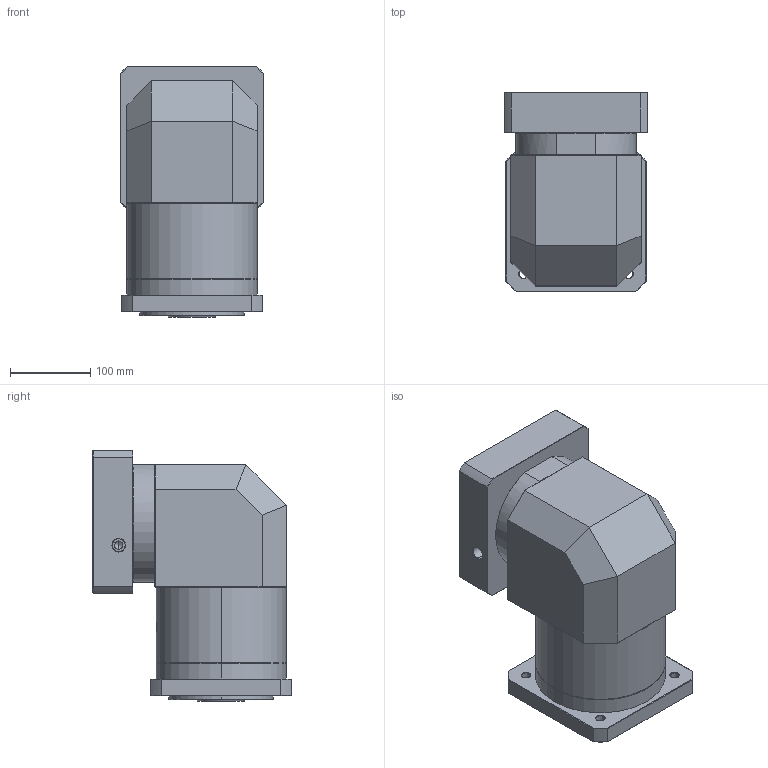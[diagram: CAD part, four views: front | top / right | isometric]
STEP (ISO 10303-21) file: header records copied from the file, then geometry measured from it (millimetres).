
FILE_DESCRIPTION (( 'STEP AP214' ), '1' );
FILE_NAME ('ZFR160A-K35-L2-P2-35-114.3-200-M12.step', '2023-09-03T09:02:28', ( '' ), ( '' ), 'SwSTEP 2.0', 'SolidWorks 2016', '' );
FILE_SCHEMA (( 'AUTOMOTIVE_DESIGN' ));
Length unit declared in the file: millimetre
Products named in the file (1): ZFR160A-K35-L2-P2-35-114.3-200-M12
Bounding box: 178 x 247.5 x 312.7 mm (x, y, z)
Volume: 7764760 mm3; surface area: 480978.8 mm2
Topology: 6 solids, 6 shells, 2133 faces, 5644 edges, 3618 vertices
Faces by surface type: plane 1039, bspline 403, cylinder 367, cone 304, torus 20
Entity records: 118242 total; most frequent: CARTESIAN_POINT 46994, ORIENTED_EDGE 11232, DIRECTION 8155, EDGE_CURVE 5616, VERTEX_POINT 3618, VECTOR 3027, LINE 3027, AXIS2_PLACEMENT_3D 2564
